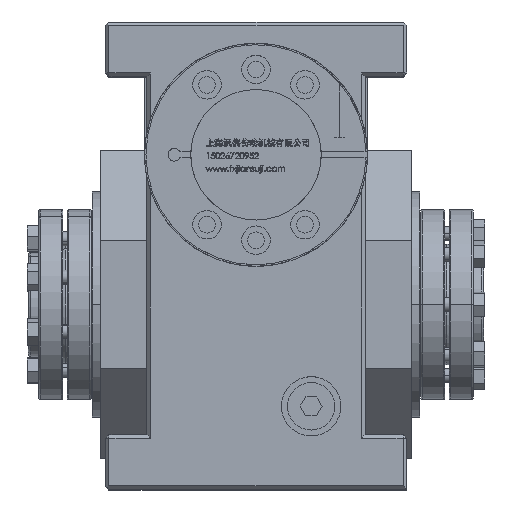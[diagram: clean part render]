
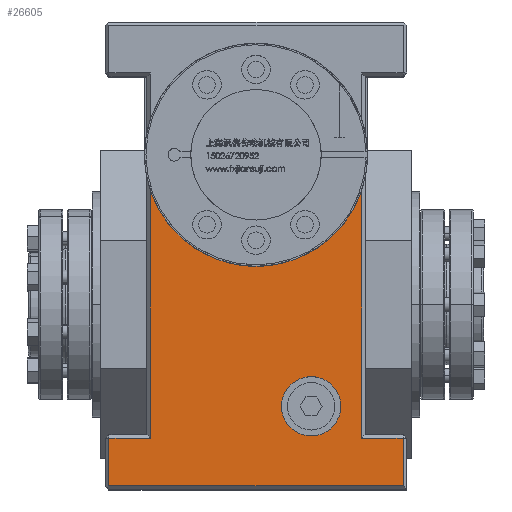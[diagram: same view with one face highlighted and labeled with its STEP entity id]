
A CAD part, top view. The second image highlights one B-rep face of the part: STEP entity #26605.
In plain terms, the highlighted planar face has unit normal (0, 0, 1).
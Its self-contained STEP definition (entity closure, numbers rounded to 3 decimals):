
#181 = CARTESIAN_POINT ( 'NONE',  ( 35.762, -43., 83. ) ) ;
#251 = VECTOR ( 'NONE', #59237, 1000. ) ;
#467 = DIRECTION ( 'NONE',  ( 0., 1., 0. ) ) ;
#471 = CARTESIAN_POINT ( 'NONE',  ( 23.262, -43., 83. ) ) ;
#933 = EDGE_CURVE ( 'NONE', #81332, #1817, #6489, .T. ) ;
#1775 = CARTESIAN_POINT ( 'NONE',  ( 23.262, -43., 83. ) ) ;
#1817 = VERTEX_POINT ( 'NONE', #181 ) ;
#2114 = CARTESIAN_POINT ( 'NONE',  ( -44.5, -56.5, 83. ) ) ;
#3147 = VECTOR ( 'NONE', #33585, 1000. ) ;
#3746 = CARTESIAN_POINT ( 'NONE',  ( -62., -76.5, 83. ) ) ;
#5839 = CARTESIAN_POINT ( 'NONE',  ( 0., 63., 83. ) ) ;
#6489 = CIRCLE ( 'NONE', #58621, 12.5 ) ;
#8179 = CARTESIAN_POINT ( 'NONE',  ( 10.762, -43., 83. ) ) ;
#9247 = EDGE_LOOP ( 'NONE', ( #61638, #34070 ) ) ;
#10667 = DIRECTION ( 'NONE',  ( 0., 0., -1. ) ) ;
#10722 = VERTEX_POINT ( 'NONE', #59229 ) ;
#11461 = DIRECTION ( 'NONE',  ( 0., 1., 0. ) ) ;
#12952 = ORIENTED_EDGE ( 'NONE', *, *, #35622, .T. ) ;
#14211 = CIRCLE ( 'NONE', #66317, 12.5 ) ;
#17486 = LINE ( 'NONE', #36397, #56882 ) ;
#18923 = EDGE_CURVE ( 'NONE', #10722, #72459, #26745, .T. ) ;
#19419 = CARTESIAN_POINT ( 'NONE',  ( -44.5, -55., 83. ) ) ;
#22498 = EDGE_CURVE ( 'NONE', #68485, #82671, #31010, .T. ) ;
#23734 = CARTESIAN_POINT ( 'NONE',  ( -62., 119., 83. ) ) ;
#24750 = DIRECTION ( 'NONE',  ( 0., 1., 0. ) ) ;
#25149 = DIRECTION ( 'NONE',  ( 1., 0., 0. ) ) ;
#25745 = LINE ( 'NONE', #78580, #251 ) ;
#26605 = ADVANCED_FACE ( 'NONE', ( #30002, #83268 ), #56205, .F. ) ;
#26699 = VECTOR ( 'NONE', #59483, 1000. ) ;
#26745 = LINE ( 'NONE', #19419, #3147 ) ;
#30002 = FACE_OUTER_BOUND ( 'NONE', #77109, .T. ) ;
#31010 = LINE ( 'NONE', #23734, #31793 ) ;
#31793 = VECTOR ( 'NONE', #64078, 1000. ) ;
#32812 = ORIENTED_EDGE ( 'NONE', *, *, #46153, .F. ) ;
#33508 = VECTOR ( 'NONE', #25149, 1000. ) ;
#33585 = DIRECTION ( 'NONE',  ( 0., -1., 0. ) ) ;
#33606 = EDGE_CURVE ( 'NONE', #72459, #68485, #65491, .T. ) ;
#34005 = ORIENTED_EDGE ( 'NONE', *, *, #74211, .T. ) ;
#34070 = ORIENTED_EDGE ( 'NONE', *, *, #933, .F. ) ;
#35622 = EDGE_CURVE ( 'NONE', #66840, #70064, #54141, .T. ) ;
#36397 = CARTESIAN_POINT ( 'NONE',  ( 62., -55., 83. ) ) ;
#36864 = DIRECTION ( 'NONE',  ( 0., 1., 0. ) ) ;
#36889 = AXIS2_PLACEMENT_3D ( 'NONE', #43335, #10667, #36864 ) ;
#38699 = CARTESIAN_POINT ( 'NONE',  ( -62., -56.5, 83. ) ) ;
#43335 = CARTESIAN_POINT ( 'NONE',  ( 63.5, 119., 83. ) ) ;
#44720 = DIRECTION ( 'NONE',  ( 0., 0., 1. ) ) ;
#46153 = EDGE_CURVE ( 'NONE', #10722, #70064, #50905, .T. ) ;
#46572 = ORIENTED_EDGE ( 'NONE', *, *, #18923, .T. ) ;
#47306 = DIRECTION ( 'NONE',  ( 0., 0., 1. ) ) ;
#47684 = CARTESIAN_POINT ( 'NONE',  ( 44.5, 53.356, 83. ) ) ;
#47986 = AXIS2_PLACEMENT_3D ( 'NONE', #5839, #77171, #24750 ) ;
#48059 = VERTEX_POINT ( 'NONE', #48910 ) ;
#48910 = CARTESIAN_POINT ( 'NONE',  ( 62., -56.5, 83. ) ) ;
#50217 = ORIENTED_EDGE ( 'NONE', *, *, #68832, .T. ) ;
#50668 = EDGE_CURVE ( 'NONE', #1817, #81332, #14211, .T. ) ;
#50905 = CIRCLE ( 'NONE', #47986, 47. ) ;
#50963 = CARTESIAN_POINT ( 'NONE',  ( 44.5, -56.5, 83. ) ) ;
#53048 = CARTESIAN_POINT ( 'NONE',  ( -63.5, -56.5, 83. ) ) ;
#54141 = LINE ( 'NONE', #47684, #54347 ) ;
#54347 = VECTOR ( 'NONE', #467, 1000. ) ;
#54570 = ORIENTED_EDGE ( 'NONE', *, *, #33606, .T. ) ;
#54873 = ORIENTED_EDGE ( 'NONE', *, *, #22498, .T. ) ;
#56205 = PLANE ( 'NONE',  #36889 ) ;
#56882 = VECTOR ( 'NONE', #11461, 1000. ) ;
#57773 = LINE ( 'NONE', #83981, #33508 ) ;
#58621 = AXIS2_PLACEMENT_3D ( 'NONE', #1775, #47306, #67479 ) ;
#58682 = VERTEX_POINT ( 'NONE', #64635 ) ;
#59229 = CARTESIAN_POINT ( 'NONE',  ( -44.5, 47.876, 83. ) ) ;
#59237 = DIRECTION ( 'NONE',  ( -1., 0., 0. ) ) ;
#59483 = DIRECTION ( 'NONE',  ( -1., 0., 0. ) ) ;
#61638 = ORIENTED_EDGE ( 'NONE', *, *, #50668, .F. ) ;
#64078 = DIRECTION ( 'NONE',  ( 0., -1., 0. ) ) ;
#64635 = CARTESIAN_POINT ( 'NONE',  ( 62., -76.5, 83. ) ) ;
#65491 = LINE ( 'NONE', #53048, #26699 ) ;
#66176 = DIRECTION ( 'NONE',  ( 1., 0., 0. ) ) ;
#66317 = AXIS2_PLACEMENT_3D ( 'NONE', #471, #44720, #66176 ) ;
#66716 = EDGE_CURVE ( 'NONE', #58682, #48059, #17486, .T. ) ;
#66840 = VERTEX_POINT ( 'NONE', #50963 ) ;
#67479 = DIRECTION ( 'NONE',  ( 1., 0., 0. ) ) ;
#68485 = VERTEX_POINT ( 'NONE', #38699 ) ;
#68832 = EDGE_CURVE ( 'NONE', #48059, #66840, #25745, .T. ) ;
#70064 = VERTEX_POINT ( 'NONE', #82365 ) ;
#72459 = VERTEX_POINT ( 'NONE', #2114 ) ;
#74211 = EDGE_CURVE ( 'NONE', #82671, #58682, #57773, .T. ) ;
#77109 = EDGE_LOOP ( 'NONE', ( #34005, #83852, #50217, #12952, #32812, #46572, #54570, #54873 ) ) ;
#77171 = DIRECTION ( 'NONE',  ( 0., 0., 1. ) ) ;
#78580 = CARTESIAN_POINT ( 'NONE',  ( 63.5, -56.5, 83. ) ) ;
#81332 = VERTEX_POINT ( 'NONE', #8179 ) ;
#82365 = CARTESIAN_POINT ( 'NONE',  ( 44.5, 47.876, 83. ) ) ;
#82671 = VERTEX_POINT ( 'NONE', #3746 ) ;
#83268 = FACE_BOUND ( 'NONE', #9247, .T. ) ;
#83852 = ORIENTED_EDGE ( 'NONE', *, *, #66716, .T. ) ;
#83981 = CARTESIAN_POINT ( 'NONE',  ( 63.5, -76.5, 83. ) ) ;
